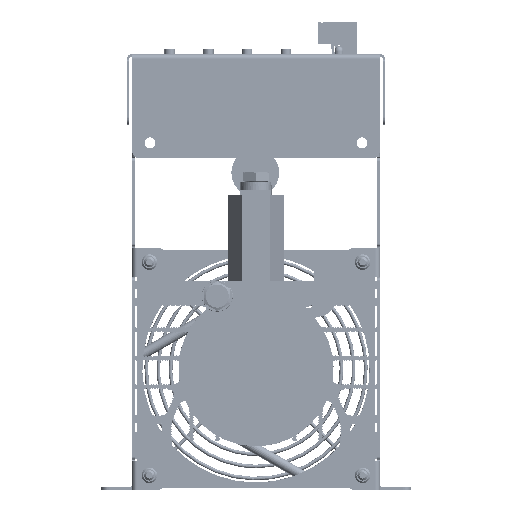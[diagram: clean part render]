
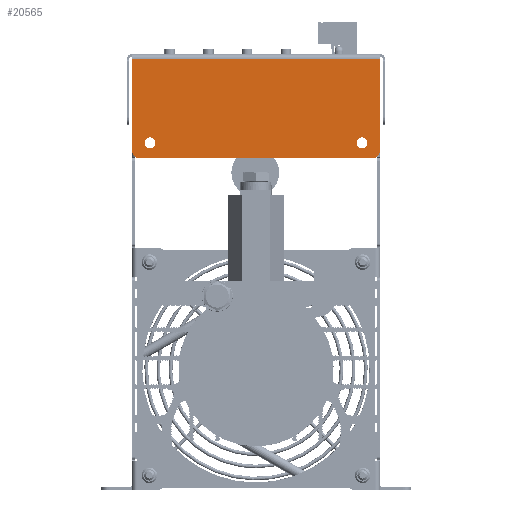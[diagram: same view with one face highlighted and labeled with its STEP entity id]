
A CAD part, front view. The second image highlights one B-rep face of the part: STEP entity #20565.
In plain terms, the highlighted planar face has unit normal (0, -1, 0).
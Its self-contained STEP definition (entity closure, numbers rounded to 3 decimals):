
#20565=ADVANCED_FACE('',(#80336,#80338,#80340),#80342,.F.);
#80336=FACE_BOUND('',#80337,.T.);
#80337=EDGE_LOOP('',(#140583,#140584,#140585,#140586,#140587,#140588));
#80338=FACE_BOUND('',#80339,.T.);
#80339=EDGE_LOOP('',(#140589));
#80340=FACE_BOUND('',#80341,.T.);
#80341=EDGE_LOOP('',(#140590));
#80342=PLANE('',#80343);
#80343=AXIS2_PLACEMENT_3D('',#80344,#80345,#80346);
#80344=CARTESIAN_POINT('',(0.,-97.,217.299));
#80345=DIRECTION('',(0.,1.,0.));
#80346=DIRECTION('',(1.,0.,0.));
#140583=ORIENTED_EDGE('',*,*,#177137,.F.);
#140584=ORIENTED_EDGE('',*,*,#177138,.F.);
#140585=ORIENTED_EDGE('',*,*,#177139,.F.);
#140586=ORIENTED_EDGE('',*,*,#177140,.F.);
#140587=ORIENTED_EDGE('',*,*,#176384,.T.);
#140588=ORIENTED_EDGE('',*,*,#177141,.F.);
#140589=ORIENTED_EDGE('',*,*,#177142,.T.);
#140590=ORIENTED_EDGE('',*,*,#177143,.T.);
#176384=EDGE_CURVE('',#201937,#201938,#201939,.T.);
#177137=EDGE_CURVE('',#203113,#203114,#203115,.F.);
#177138=EDGE_CURVE('',#203116,#203113,#203117,.T.);
#177139=EDGE_CURVE('',#203118,#203116,#203119,.F.);
#177140=EDGE_CURVE('',#201937,#203118,#203120,.T.);
#177141=EDGE_CURVE('',#203114,#201938,#203121,.T.);
#177142=EDGE_CURVE('',#203122,#203122,#203123,.F.);
#177143=EDGE_CURVE('',#203124,#203124,#203125,.F.);
#201937=VERTEX_POINT('',#261986);
#201938=VERTEX_POINT('',#261987);
#201939=LINE('',#261988,#261989);
#203113=VERTEX_POINT('',#266990);
#203114=VERTEX_POINT('',#266991);
#203115=CIRCLE('',#266992,3.);
#203116=VERTEX_POINT('',#266996);
#203117=LINE('',#266997,#266998);
#203118=VERTEX_POINT('',#267000);
#203119=CIRCLE('',#267001,3.);
#203120=LINE('',#267005,#267006);
#203121=LINE('',#267008,#267009);
#203122=VERTEX_POINT('',#267011);
#203123=CIRCLE('',#267012,2.1);
#203124=VERTEX_POINT('',#267016);
#203125=CIRCLE('',#267017,2.1);
#261986=CARTESIAN_POINT('',(48.,-97.,120.1));
#261987=CARTESIAN_POINT('',(-48.,-97.,120.1));
#261988=CARTESIAN_POINT('',(48.,-97.,120.1));
#261989=VECTOR('',#261990,1.);
#261990=DIRECTION('',(-1.,0.,0.));
#266990=CARTESIAN_POINT('',(-45.,-97.,81.8));
#266991=CARTESIAN_POINT('',(-48.,-97.,84.8));
#266992=AXIS2_PLACEMENT_3D('',#266993,#266994,#266995);
#266993=CARTESIAN_POINT('',(-45.,-97.,84.8));
#266994=DIRECTION('',(0.,-1.,0.));
#266995=DIRECTION('',(-1.,0.,0.));
#266996=CARTESIAN_POINT('',(45.,-97.,81.8));
#266997=CARTESIAN_POINT('',(45.,-97.,81.8));
#266998=VECTOR('',#266999,1.);
#266999=DIRECTION('',(-1.,0.,0.));
#267000=CARTESIAN_POINT('',(48.,-97.,84.8));
#267001=AXIS2_PLACEMENT_3D('',#267002,#267003,#267004);
#267002=CARTESIAN_POINT('',(45.,-97.,84.8));
#267003=DIRECTION('',(0.,-1.,0.));
#267004=DIRECTION('',(0.,0.,-1.));
#267005=CARTESIAN_POINT('',(48.,-97.,120.1));
#267006=VECTOR('',#267007,1.);
#267007=DIRECTION('',(0.,0.,-1.));
#267008=CARTESIAN_POINT('',(-48.,-97.,84.8));
#267009=VECTOR('',#267010,1.);
#267010=DIRECTION('',(0.,0.,1.));
#267011=CARTESIAN_POINT('',(-38.9,-97.,87.8));
#267012=AXIS2_PLACEMENT_3D('',#267013,#267014,#267015);
#267013=CARTESIAN_POINT('',(-41.,-97.,87.8));
#267014=DIRECTION('',(0.,-1.,0.));
#267015=DIRECTION('',(1.,0.,0.));
#267016=CARTESIAN_POINT('',(43.1,-97.,87.8));
#267017=AXIS2_PLACEMENT_3D('',#267018,#267019,#267020);
#267018=CARTESIAN_POINT('',(41.,-97.,87.8));
#267019=DIRECTION('',(0.,-1.,0.));
#267020=DIRECTION('',(1.,0.,0.));
